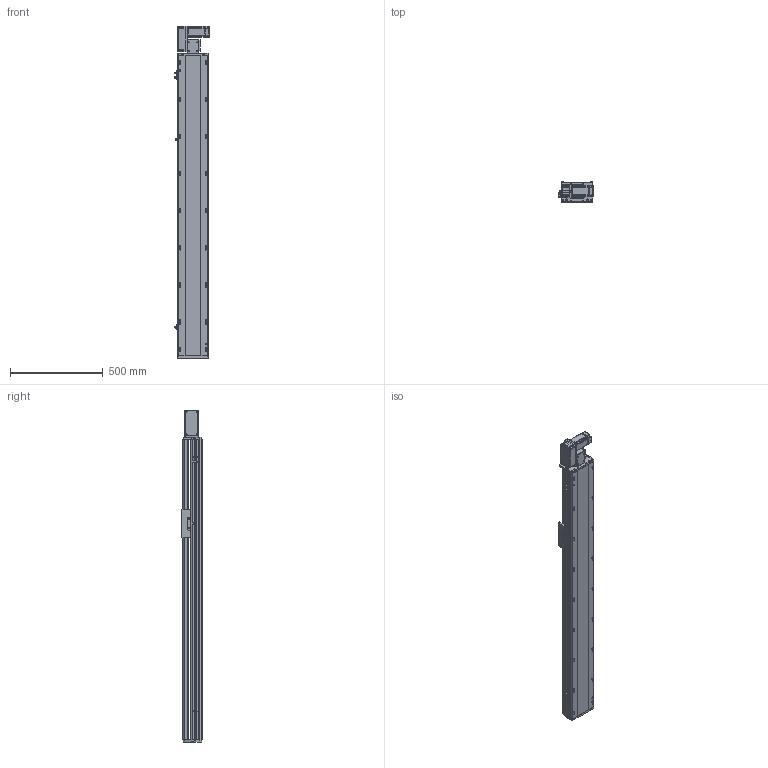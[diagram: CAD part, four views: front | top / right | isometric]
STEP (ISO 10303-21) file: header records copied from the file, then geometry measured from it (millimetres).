
FILE_DESCRIPTION (( 'STEP AP214' ), '1' );
FILE_NAME ('RTB17S-XX-1350-L-M40-C4.STEP', '2025-12-11T05:40:26', ( '' ), ( '' ), 'SwSTEP 2.0', 'SolidWorks 2018', '' );
FILE_SCHEMA (( 'AUTOMOTIVE_DESIGN' ));
Length unit declared in the file: millimetre
Products named in the file (14): RTB17S-L-004丝杆螺母连接座^RTB17S-XX-XX-L-M40-C4（方程式）; RTB14-L-008-M20--电机板^RTB17S-L-皮带座装配-400W_RTB17S-XX-XX-L-M40-C4（方程式）; RTB14-L-017P^RTB17S-L-皮带座装配-400W_RTB17S-XX-XX-L-M40-C4（方程式）; RTB17S-L-007上盖^RTB17S-XX-XX-L-M40-C4（方程式）; RTH13-BL-012感应片外置^RTB17S-XX-XX-L-M40-C4（方程式）; OMRON EE-SX672 传感器^RTB17S-XX-XX-L-M40-C4（方程式）; RTB17S-L-皮带座装配-400W^RTB17S-XX-XX-L-M40-C4（方程式）; RTB14-L-018P^RTB17S-L-皮带座装配-400W_RTB17S-XX-XX-L-M40-C4（方程式）; RTB14-L-005P--轴承塑胶压盖^RTB17S-L-皮带座装配-400W_RTB17S-XX-XX-L-M40-C4（方程式）; 400W伺服电机^RTB17S-XX-XX-L-M40-C4（方程式）; RMP17S-L-014-T20--皮带座^RTB17S-L-皮带座装配-400W_RTB17S-XX-XX-L-M40-C4（方程式）; RTB17S-L-001侧面板^RTB17S-XX-XX-L-M40-C4（方程式）; RTB17-R-011底座^RTB17S-XX-XX-L-M40-C4（方程式）; RTB17S-XX-1350-L-M40-C4
Assembly tree (16 placements, depth 3):
  RTB17S-XX-1350-L-M40-C4
    RTB17-R-011底座^RTB17S-XX-XX-L-M40-C4（方程式）
    RTB17S-L-007上盖^RTB17S-XX-XX-L-M40-C4（方程式）
    OMRON EE-SX672 传感器^RTB17S-XX-XX-L-M40-C4（方程式）  x3
    RTB17S-L-001侧面板^RTB17S-XX-XX-L-M40-C4（方程式）
    400W伺服电机^RTB17S-XX-XX-L-M40-C4（方程式）
    RTB17S-L-004丝杆螺母连接座^RTB17S-XX-XX-L-M40-C4（方程式）
    RTH13-BL-012感应片外置^RTB17S-XX-XX-L-M40-C4（方程式）
    RTB17S-L-皮带座装配-400W^RTB17S-XX-XX-L-M40-C4（方程式）
      RMP17S-L-014-T20--皮带座^RTB17S-L-皮带座装配-400W_RTB17S-XX-XX-L-M40-C4（方程式）
      RTB14-L-005P--轴承塑胶压盖^RTB17S-L-皮带座装配-400W_RTB17S-XX-XX-L-M40-C4（方程式）
      RTB14-L-008-M20--电机板^RTB17S-L-皮带座装配-400W_RTB17S-XX-XX-L-M40-C4（方程式）
      RTB14-L-017P^RTB17S-L-皮带座装配-400W_RTB17S-XX-XX-L-M40-C4（方程式）  x2
      RTB14-L-018P^RTB17S-L-皮带座装配-400W_RTB17S-XX-XX-L-M40-C4（方程式）
Bounding box: 186 x 108 x 1791 mm (x, y, z)
Volume: 15228583 mm3; surface area: 1809316.8 mm2
Topology: 15 solids, 15 shells, 2237 faces, 6195 edges, 4041 vertices
Faces by surface type: plane 1072, cylinder 717, bspline 301, cone 139, torus 8
Entity records: 64169 total; most frequent: CARTESIAN_POINT 18000, ORIENTED_EDGE 9234, DIRECTION 8576, EDGE_CURVE 4617, VERTEX_POINT 3029, AXIS2_PLACEMENT_3D 2959, VECTOR 2658, LINE 2658
